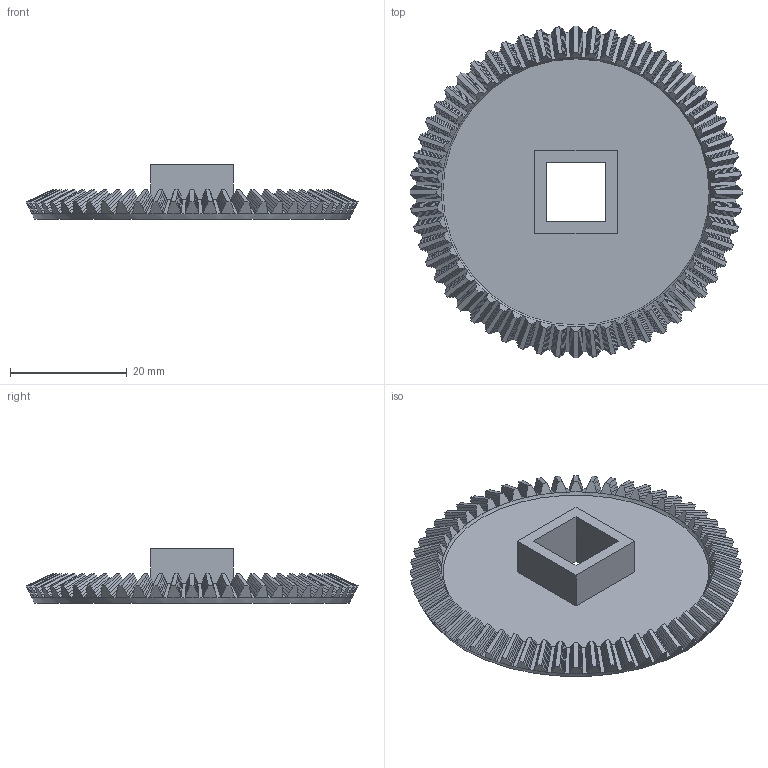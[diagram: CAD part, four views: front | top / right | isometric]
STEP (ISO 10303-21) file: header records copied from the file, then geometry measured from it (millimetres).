
FILE_DESCRIPTION(/* description */ ('STEP AP242','CAx-IF Rec.Pracs.---Representation and Presentation of Product Manufacturing Information (PMI)---4.0---2014-10-13','CAx-IF Rec.Pracs.---3D Tessellated Geometry---0.4---2014-09-14','2;1'),/* implementation_level */ '2;1');
FILE_NAME(/* name */ 'Part Studio 1 - Cam Shaft Gear',/* time_stamp */ '2025-09-04T05:47:28Z',/* author */ (''),/* organization */ (''),/* preprocessor_version */ 'ST-DEVELOPER v20',/* originating_system */ 'ONSHAPE BY PTC INC, 1.203',/* authorisation */ ' ');
FILE_SCHEMA (('AP242_MANAGED_MODEL_BASED_3D_ENGINEERING_MIM_LF { 1 0 10303 442 1 1 4 }'));
Length unit declared in the file: metre
Products named in the file (1): Cam Shaft Gear
Bounding box: 56.89 x 56.89 x 9.4 mm (x, y, z)
Volume: 7550.8 mm3; surface area: 6755.9 mm2
Topology: 1 solids, 1 shells, 909 faces, 2604 edges, 1698 vertices
Faces by surface type: plane 851, cone 58
Entity records: 29260 total; most frequent: CARTESIAN_POINT 5546, ORIENTED_EDGE 5204, DIRECTION 4536, EDGE_CURVE 2602, LINE 2264, VECTOR 2264, VERTEX_POINT 1698, AXIS2_PLACEMENT_3D 1136
